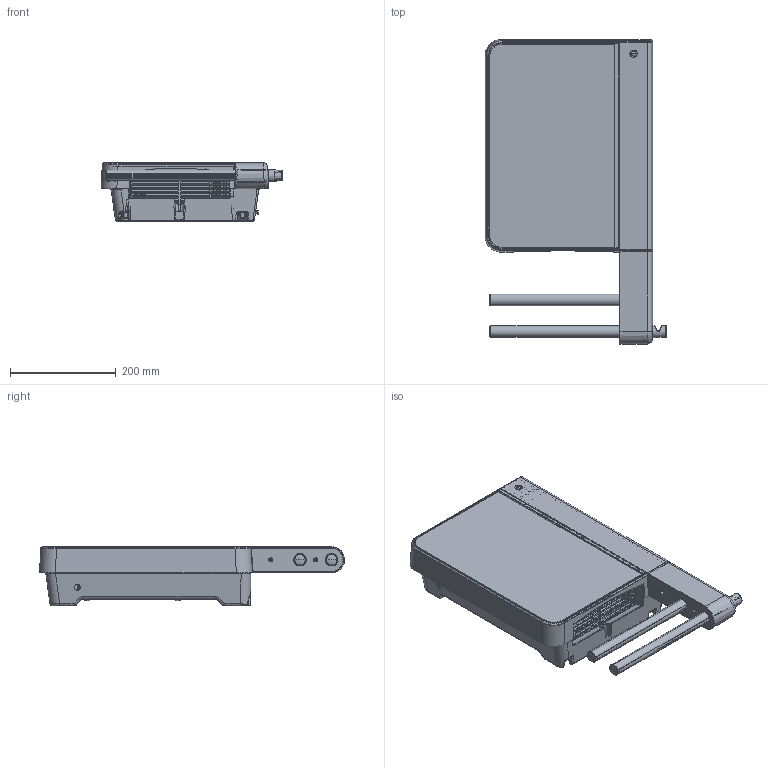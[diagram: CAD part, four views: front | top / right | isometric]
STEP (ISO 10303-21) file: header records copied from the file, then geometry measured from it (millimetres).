
FILE_DESCRIPTION(('FreeCAD Model'),'2;1');
FILE_NAME('Open CASCADE Shape Model','2026-06-16T10:00:54',(''),(''), 'Open CASCADE STEP processor 7.8','FreeCAD','Unknown');
FILE_SCHEMA(('AUTOMOTIVE_DESIGN { 1 0 10303 214 1 1 1 1 }'));
Length unit declared in the file: millimetre
Products named in the file (16): Unnamed; TBE_POSTERIORE; SLI_GUIDA-FILTRO; SLI_GRIGLIA; SLI_GR-FILTRO_ASM; SLI_FILTRO-CORPO; TBE_GR-MOTHER-BOARD_ASM; PIR_AF0; TBE_FRONTALE; TBE_MASCHERINA-COMANDI; TBE_BLOCCO-SPECCHIO; TBE_SPECCHIO; TBE_BARRA-PORTASALVIETTE; TBE_TAPPO-BARRA; TBE_COVER-PORTASALVIETTE; TBE_TAPPO-COVER-PORTASALVIETTE
Assembly tree (18 placements, depth 3):
  Unnamed
    TBE_POSTERIORE
    SLI_GUIDA-FILTRO
    SLI_GRIGLIA
    SLI_GR-FILTRO_ASM
      SLI_FILTRO-CORPO
    TBE_GR-MOTHER-BOARD_ASM
      PIR_AF0
    TBE_FRONTALE
    TBE_MASCHERINA-COMANDI
    TBE_BLOCCO-SPECCHIO
    TBE_SPECCHIO
    TBE_BARRA-PORTASALVIETTE  x2
    TBE_TAPPO-BARRA  x3
    TBE_COVER-PORTASALVIETTE
    TBE_TAPPO-COVER-PORTASALVIETTE
Bounding box: 345 x 578.18 x 113.25 mm (x, y, z)
Volume: 1604184.1 mm3; surface area: 1494101.8 mm2
Topology: 16 solids, 16 shells, 4728 faces, 12750 edges, 8059 vertices
Faces by surface type: plane 2195, cylinder 1079, bspline 661, cone 491, torus 215, sphere 37, revolution 34, extrusion 16
Entity records: 194834 total; most frequent: CARTESIAN_POINT 84627, ORIENTED_EDGE 25002, DIRECTION 19827, EDGE_CURVE 12501, VERTEX_POINT 7909, VECTOR 6939, LINE 6923, AXIS2_PLACEMENT_3D 6427
